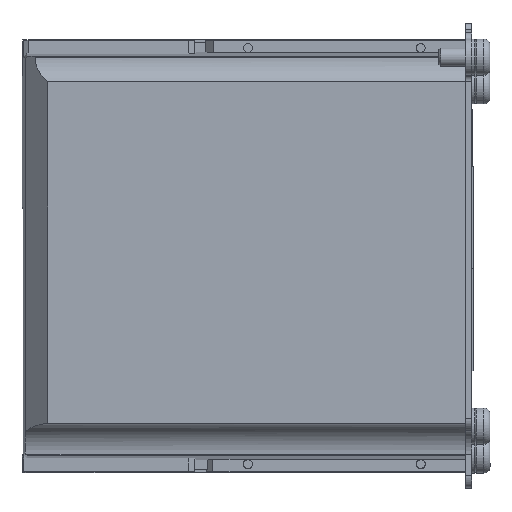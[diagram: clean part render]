
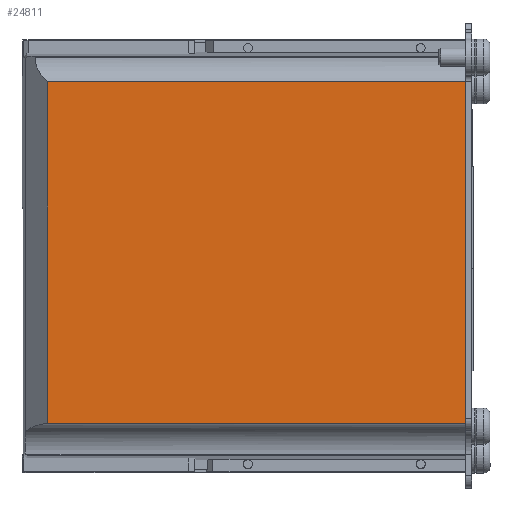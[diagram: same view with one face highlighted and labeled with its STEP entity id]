
A CAD part, top view. The second image highlights one B-rep face of the part: STEP entity #24811.
In plain terms, the highlighted planar face has unit normal (0, 0, 1).
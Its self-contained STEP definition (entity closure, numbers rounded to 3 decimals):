
#1572=LINE('',#35357,#4280);
#1575=LINE('',#35365,#4283);
#1576=LINE('',#35367,#4284);
#1577=LINE('',#35368,#4285);
#4280=VECTOR('',#28595,10.);
#4283=VECTOR('',#28602,10.);
#4284=VECTOR('',#28603,10.);
#4285=VECTOR('',#28604,10.);
#6675=FACE_OUTER_BOUND('',#8033,.T.);
#8033=EDGE_LOOP('',(#16799,#16800,#16801,#16802));
#10340=VERTEX_POINT('',#35354);
#10341=VERTEX_POINT('',#35356);
#10344=VERTEX_POINT('',#35364);
#10345=VERTEX_POINT('',#35366);
#12861=EDGE_CURVE('',#10340,#10341,#1572,.T.);
#12865=EDGE_CURVE('',#10344,#10340,#1575,.T.);
#12866=EDGE_CURVE('',#10344,#10345,#1576,.T.);
#12867=EDGE_CURVE('',#10345,#10341,#1577,.T.);
#16799=ORIENTED_EDGE('',*,*,#12861,.F.);
#16800=ORIENTED_EDGE('',*,*,#12865,.F.);
#16801=ORIENTED_EDGE('',*,*,#12866,.T.);
#16802=ORIENTED_EDGE('',*,*,#12867,.T.);
#22551=PLANE('',#26274);
#24811=ADVANCED_FACE('',(#6675),#22551,.T.);
#26274=AXIS2_PLACEMENT_3D('',#35363,#28600,#28601);
#28595=DIRECTION('',(0.,1.,0.));
#28600=DIRECTION('center_axis',(0.,0.,
1.));
#28601=DIRECTION('ref_axis',(-1.,0.,0.));
#28602=DIRECTION('',(-1.,0.,0.));
#28603=DIRECTION('',(0.,1.,0.));
#28604=DIRECTION('',(-1.,0.,0.));
#35354=CARTESIAN_POINT('',(-24.197,13.53,16.026));
#35356=CARTESIAN_POINT('',(-24.197,70.306,16.026));
#35357=CARTESIAN_POINT('',(-24.197,55.778,16.026));
#35363=CARTESIAN_POINT('Origin',(45.23,70.306,16.026));
#35364=CARTESIAN_POINT('',(45.23,13.53,16.026));
#35365=CARTESIAN_POINT('',(45.23,13.53,16.026));
#35366=CARTESIAN_POINT('',(45.23,70.306,16.026));
#35367=CARTESIAN_POINT('',(45.23,13.53,16.026));
#35368=CARTESIAN_POINT('',(45.23,70.306,16.026));
